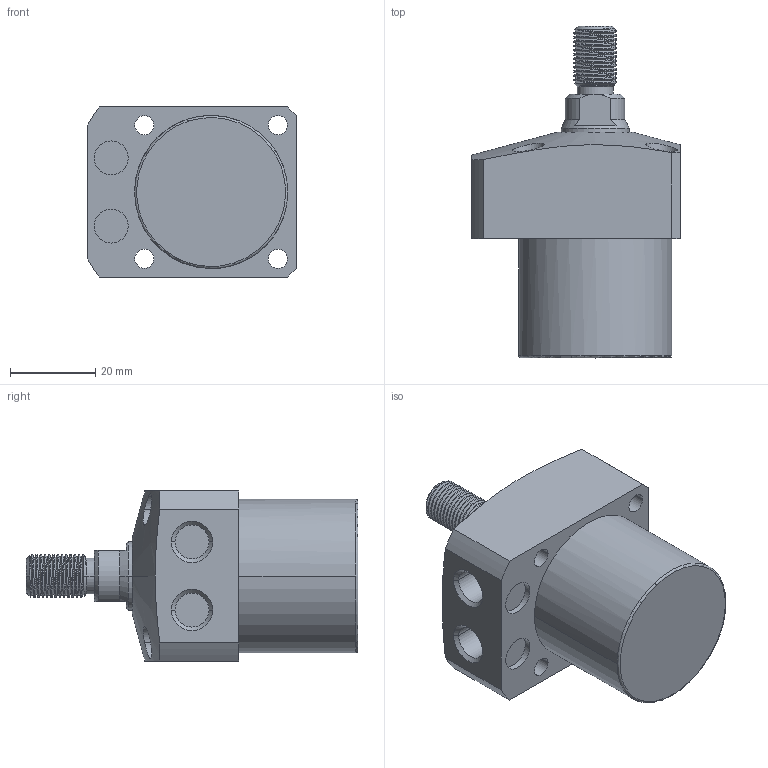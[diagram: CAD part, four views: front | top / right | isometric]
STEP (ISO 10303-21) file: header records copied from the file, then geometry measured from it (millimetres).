
FILE_DESCRIPTION((' '),'2;1');
FILE_NAME( 'TLL-036CT-020.STEP.stp', '2025-10-24T16:39:41', (' '), ('--- Datakit www.datakit.com---'), ' Datakit CrossCadWare V2024.1 Dec 21 2023', 'Mastercam 2025', ' ');
FILE_SCHEMA(('AUTOMOTIVE_DESIGN { 1 0 10303 214 1 1 1 1 }'));
Length unit declared in the file: millimetre
Products named in the file (1): TLL-036CT-020
Bounding box: 49 x 78 x 40 mm (x, y, z)
Volume: 71399.8 mm3; surface area: 13831.4 mm2
Topology: 1 solids, 1 shells, 102 faces, 354 edges, 265 vertices
Faces by surface type: cylinder 61, plane 23, cone 14, torus 2, bspline 2
Entity records: 11788 total; most frequent: CARTESIAN_POINT 8813, ORIENTED_EDGE 708, DIRECTION 520, EDGE_CURVE 354, VERTEX_POINT 265, AXIS2_PLACEMENT_3D 216, B_SPLINE_CURVE_WITH_KNOTS 151, EDGE_LOOP 121
